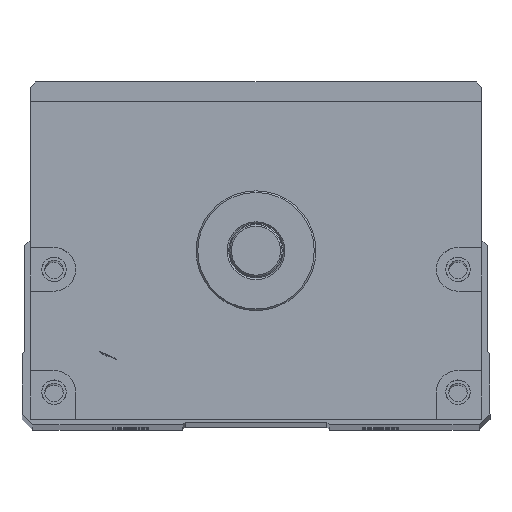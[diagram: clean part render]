
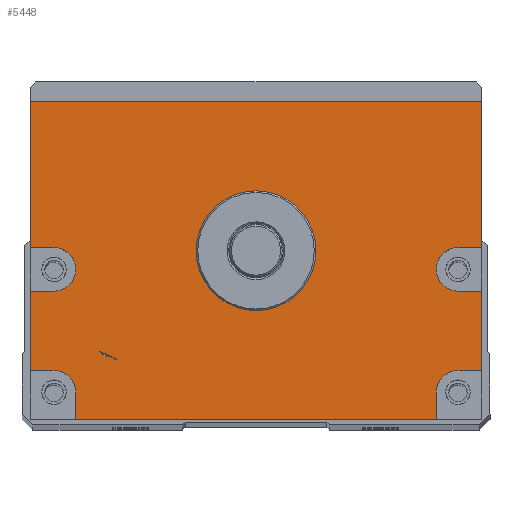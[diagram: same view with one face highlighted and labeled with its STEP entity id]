
A CAD part, top view. The second image highlights one B-rep face of the part: STEP entity #5448.
In plain terms, the highlighted planar face has unit normal (0, 0, 1).
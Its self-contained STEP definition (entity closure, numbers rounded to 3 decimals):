
#575=LINE('',#26693,#1283);
#577=LINE('',#26701,#1285);
#578=LINE('',#26704,#1286);
#579=LINE('',#26706,#1287);
#580=LINE('',#26710,#1288);
#581=LINE('',#26712,#1289);
#582=LINE('',#26713,#1290);
#583=LINE('',#26715,#1291);
#584=LINE('',#26719,#1292);
#585=LINE('',#26721,#1293);
#586=LINE('',#26723,#1294);
#587=LINE('',#26727,#1295);
#588=LINE('',#26729,#1296);
#589=LINE('',#26731,#1297);
#1283=VECTOR('',#15131,1.);
#1285=VECTOR('',#15139,1.);
#1286=VECTOR('',#15140,1.);
#1287=VECTOR('',#15141,1.);
#1288=VECTOR('',#15144,1.);
#1289=VECTOR('',#15145,1.);
#1290=VECTOR('',#15146,1.);
#1291=VECTOR('',#15147,1.);
#1292=VECTOR('',#15150,1.);
#1293=VECTOR('',#15151,1.);
#1294=VECTOR('',#15152,1.);
#1295=VECTOR('',#15155,1.);
#1296=VECTOR('',#15156,1.);
#1297=VECTOR('',#15157,1.);
#5448=ADVANCED_FACE('',(#6362,#6363),#5951,.T.);
#5951=PLANE('',#13593);
#6362=FACE_BOUND('',#6966,.T.);
#6363=FACE_BOUND('',#6967,.T.);
#6966=EDGE_LOOP('',(#8477,#8478,#8479,#8480,#8481,#8482,#8483,#8484,#8485,
#8486,#8487,#8488,#8489,#8490,#8491,#8492,#8493,#8494));
#6967=EDGE_LOOP('',(#8495));
#8477=ORIENTED_EDGE('',*,*,#11875,.F.);
#8478=ORIENTED_EDGE('',*,*,#11876,.T.);
#8479=ORIENTED_EDGE('',*,*,#11877,.F.);
#8480=ORIENTED_EDGE('',*,*,#11878,.F.);
#8481=ORIENTED_EDGE('',*,*,#11879,.F.);
#8482=ORIENTED_EDGE('',*,*,#11880,.T.);
#8483=ORIENTED_EDGE('',*,*,#11871,.T.);
#8484=ORIENTED_EDGE('',*,*,#11881,.T.);
#8485=ORIENTED_EDGE('',*,*,#11882,.F.);
#8486=ORIENTED_EDGE('',*,*,#11883,.F.);
#8487=ORIENTED_EDGE('',*,*,#11884,.F.);
#8488=ORIENTED_EDGE('',*,*,#11885,.T.);
#8489=ORIENTED_EDGE('',*,*,#11886,.F.);
#8490=ORIENTED_EDGE('',*,*,#11887,.F.);
#8491=ORIENTED_EDGE('',*,*,#11888,.F.);
#8492=ORIENTED_EDGE('',*,*,#11889,.T.);
#8493=ORIENTED_EDGE('',*,*,#11890,.F.);
#8494=ORIENTED_EDGE('',*,*,#11891,.F.);
#8495=ORIENTED_EDGE('',*,*,#11857,.T.);
#10712=VERTEX_POINT('',#26664);
#10725=VERTEX_POINT('',#26692);
#10726=VERTEX_POINT('',#26694);
#10729=VERTEX_POINT('',#26702);
#10730=VERTEX_POINT('',#26703);
#10731=VERTEX_POINT('',#26705);
#10732=VERTEX_POINT('',#26707);
#10733=VERTEX_POINT('',#26709);
#10734=VERTEX_POINT('',#26711);
#10735=VERTEX_POINT('',#26714);
#10736=VERTEX_POINT('',#26716);
#10737=VERTEX_POINT('',#26718);
#10738=VERTEX_POINT('',#26720);
#10739=VERTEX_POINT('',#26722);
#10740=VERTEX_POINT('',#26724);
#10741=VERTEX_POINT('',#26726);
#10742=VERTEX_POINT('',#26728);
#10743=VERTEX_POINT('',#26730);
#10744=VERTEX_POINT('',#26732);
#11857=EDGE_CURVE('',#10712,#10712,#12965,.T.);
#11871=EDGE_CURVE('',#10726,#10725,#575,.T.);
#11875=EDGE_CURVE('',#10729,#10730,#577,.T.);
#11876=EDGE_CURVE('',#10729,#10731,#578,.T.);
#11877=EDGE_CURVE('',#10732,#10731,#579,.T.);
#11878=EDGE_CURVE('',#10733,#10732,#12976,.T.);
#11879=EDGE_CURVE('',#10734,#10733,#580,.T.);
#11880=EDGE_CURVE('',#10734,#10726,#581,.T.);
#11881=EDGE_CURVE('',#10725,#10735,#582,.T.);
#11882=EDGE_CURVE('',#10736,#10735,#583,.T.);
#11883=EDGE_CURVE('',#10737,#10736,#12977,.T.);
#11884=EDGE_CURVE('',#10738,#10737,#584,.T.);
#11885=EDGE_CURVE('',#10738,#10739,#585,.T.);
#11886=EDGE_CURVE('',#10740,#10739,#586,.T.);
#11887=EDGE_CURVE('',#10741,#10740,#12978,.T.);
#11888=EDGE_CURVE('',#10742,#10741,#587,.T.);
#11889=EDGE_CURVE('',#10742,#10743,#588,.T.);
#11890=EDGE_CURVE('',#10744,#10743,#589,.T.);
#11891=EDGE_CURVE('',#10730,#10744,#12979,.T.);
#12965=CIRCLE('',#13575,11.);
#12976=CIRCLE('',#13589,4.);
#12977=CIRCLE('',#13590,4.);
#12978=CIRCLE('',#13591,4.);
#12979=CIRCLE('',#13592,4.);
#13575=AXIS2_PLACEMENT_3D('',#26663,#15104,#15105);
#13589=AXIS2_PLACEMENT_3D('',#26708,#15142,#15143);
#13590=AXIS2_PLACEMENT_3D('',#26717,#15148,#15149);
#13591=AXIS2_PLACEMENT_3D('',#26725,#15153,#15154);
#13592=AXIS2_PLACEMENT_3D('',#26733,#15158,#15159);
#13593=AXIS2_PLACEMENT_3D('',#26734,#15160,#15161);
#15104=DIRECTION('',(0.,0.,-1.));
#15105=DIRECTION('',(1.,0.,0.));
#15131=DIRECTION('',(-1.,0.,0.));
#15139=DIRECTION('',(-1.,0.,0.));
#15140=DIRECTION('',(0.,1.,0.));
#15141=DIRECTION('',(1.,0.,0.));
#15142=DIRECTION('',(0.,0.,1.));
#15143=DIRECTION('',(1.,0.,0.));
#15144=DIRECTION('',(-1.,0.,0.));
#15145=DIRECTION('',(0.,1.,0.));
#15146=DIRECTION('',(0.,-1.,0.));
#15147=DIRECTION('',(-1.,0.,0.));
#15148=DIRECTION('',(0.,0.,1.));
#15149=DIRECTION('',(1.,0.,0.));
#15150=DIRECTION('',(1.,0.,0.));
#15151=DIRECTION('',(0.,-1.,0.));
#15152=DIRECTION('',(-1.,0.,0.));
#15153=DIRECTION('',(0.,0.,1.));
#15154=DIRECTION('',(1.,0.,0.));
#15155=DIRECTION('',(0.,1.,0.));
#15156=DIRECTION('',(1.,0.,0.));
#15157=DIRECTION('',(0.,-1.,0.));
#15158=DIRECTION('',(0.,0.,1.));
#15159=DIRECTION('',(1.,0.,0.));
#15160=DIRECTION('',(0.,0.,1.));
#15161=DIRECTION('',(1.,0.,0.));
#26663=CARTESIAN_POINT('',(450.,0.,382.5));
#26664=CARTESIAN_POINT('',(461.,0.,382.5));
#26692=CARTESIAN_POINT('',(408.5,27.5,382.5));
#26693=CARTESIAN_POINT('',(491.5,27.5,382.5));
#26694=CARTESIAN_POINT('',(491.5,27.5,382.5));
#26701=CARTESIAN_POINT('',(491.5,-22.,382.5));
#26702=CARTESIAN_POINT('',(491.5,-22.,382.5));
#26703=CARTESIAN_POINT('',(487.115,-22.,382.5));
#26704=CARTESIAN_POINT('',(491.5,-31.,382.5));
#26705=CARTESIAN_POINT('',(491.5,-7.431,382.5));
#26706=CARTESIAN_POINT('',(491.5,-7.431,382.5));
#26707=CARTESIAN_POINT('',(487.115,-7.431,382.5));
#26708=CARTESIAN_POINT('',(487.115,-3.431,382.5));
#26709=CARTESIAN_POINT('',(487.115,0.569,382.5));
#26710=CARTESIAN_POINT('',(491.5,0.569,382.5));
#26711=CARTESIAN_POINT('',(491.5,0.569,382.5));
#26712=CARTESIAN_POINT('',(491.5,-31.,382.5));
#26713=CARTESIAN_POINT('',(408.5,27.5,382.5));
#26714=CARTESIAN_POINT('',(408.5,0.569,382.5));
#26715=CARTESIAN_POINT('',(491.5,0.569,382.5));
#26716=CARTESIAN_POINT('',(412.885,0.569,382.5));
#26717=CARTESIAN_POINT('',(412.885,-3.431,382.5));
#26718=CARTESIAN_POINT('',(412.885,-7.431,382.5));
#26719=CARTESIAN_POINT('',(491.5,-7.431,382.5));
#26720=CARTESIAN_POINT('',(408.5,-7.431,382.5));
#26721=CARTESIAN_POINT('',(408.5,27.5,382.5));
#26722=CARTESIAN_POINT('',(408.5,-22.,382.5));
#26723=CARTESIAN_POINT('',(491.5,-22.,382.5));
#26724=CARTESIAN_POINT('',(412.885,-22.,382.5));
#26725=CARTESIAN_POINT('',(412.885,-26.,382.5));
#26726=CARTESIAN_POINT('',(416.885,-26.,382.5));
#26727=CARTESIAN_POINT('',(416.885,-31.,382.5));
#26728=CARTESIAN_POINT('',(416.885,-31.,382.5));
#26729=CARTESIAN_POINT('',(408.5,-31.,382.5));
#26730=CARTESIAN_POINT('',(483.115,-31.,382.5));
#26731=CARTESIAN_POINT('',(483.115,-31.,382.5));
#26732=CARTESIAN_POINT('',(483.115,-26.,382.5));
#26733=CARTESIAN_POINT('',(487.115,-26.,382.5));
#26734=CARTESIAN_POINT('',(491.5,-31.,382.5));
